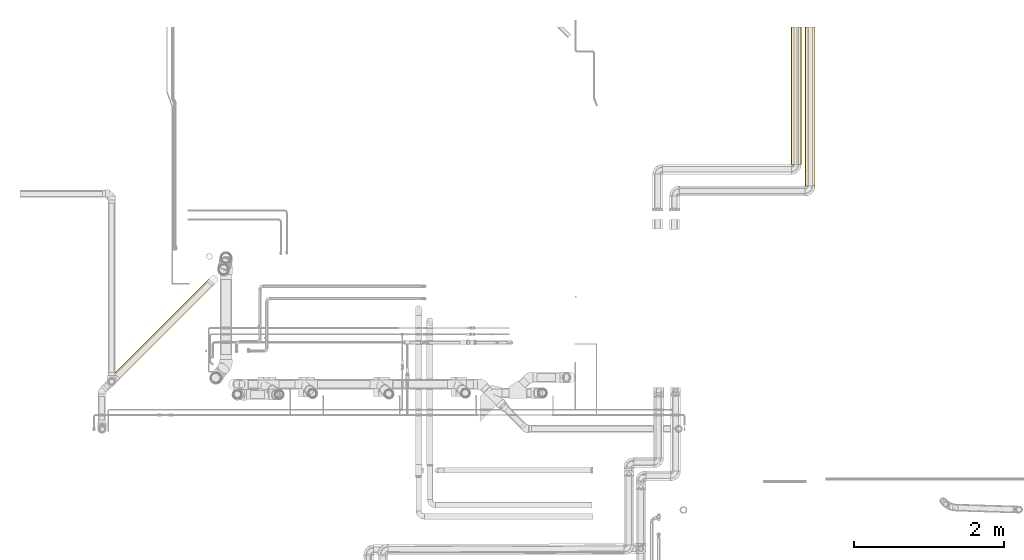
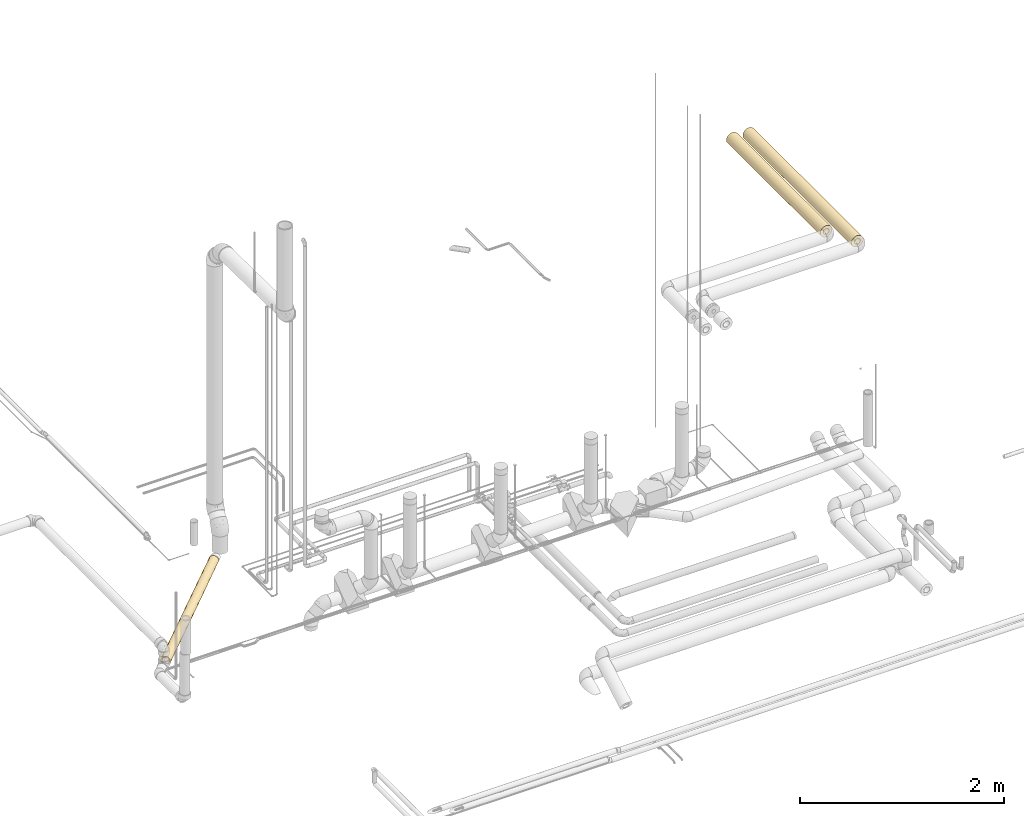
# One storey, part 13 of 156: 3 coverings.
"""IFC2X3 building model written with IfcOpenShell, lengths in millimetres."""

from ifc_helpers import new_model, entity, si_unit, converted_unit, derived_unit, direction, frame, place, context, subcontext, project, spatial, faceted_brep, element, save


model = new_model("IFC2X3")

# Units and contexts
model_context = context("Model", 3, precision=0.01, world=frame((0.0, 4.29681676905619e-09, 0.0)), true_north=direction((4.01073788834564e-13, 1.0)))
plan_context = context("Plan", 3, precision=0.01, world=frame((0.0, 4.29681676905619e-09, 0.0)), true_north=direction((4.01073788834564e-13, 1.0)))
body_context = subcontext(model_context, "Body", "Model", "MODEL_VIEW")
ifc_project = project(units=[converted_unit("PLANEANGLEUNIT", "DEGREE", entity("IfcPositiveLengthMeasure", 0.0174532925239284), si_unit("PLANEANGLEUNIT", "RADIAN"), dimensions=[0, 0, 0, 0, 0, 0, 0]), si_unit("AREAUNIT", "SQUARE_METRE"), si_unit("LENGTHUNIT", "METRE", prefix="MILLI"), si_unit("MASSUNIT", "GRAM", prefix="KILO"), si_unit("POWERUNIT", "WATT"), si_unit("PRESSUREUNIT", "PASCAL", prefix="KILO"), si_unit("FORCEUNIT", "NEWTON", prefix="KILO"), si_unit("ELECTRICVOLTAGEUNIT", "VOLT"), si_unit("ELECTRICCURRENTUNIT", "AMPERE"), si_unit("THERMODYNAMICTEMPERATUREUNIT", "DEGREE_CELSIUS"), si_unit("TIMEUNIT", "SECOND"), si_unit("VOLUMEUNIT", "CUBIC_METRE"), derived_unit("LINEARVELOCITYUNIT", [(si_unit("LENGTHUNIT", "METRE"), 1), (si_unit("TIMEUNIT", "SECOND"), -1)]), derived_unit("VOLUMETRICFLOWRATEUNIT", [(si_unit("VOLUMEUNIT", "CUBIC_METRE"), 1), (si_unit("TIMEUNIT", "SECOND"), -1)]), derived_unit("THERMALTRANSMITTANCEUNIT", [(si_unit("POWERUNIT", "WATT"), 1), (si_unit("THERMODYNAMICTEMPERATUREUNIT", "KELVIN"), -1), (si_unit("AREAUNIT", "SQUARE_METRE"), -1)]), derived_unit("SOUNDPRESSUREUNIT", [(si_unit("PRESSUREUNIT", "PASCAL"), 1)])], contexts=[model_context, plan_context])

# Site, building, storey
site_placement = place(None, frame((0.0, -4.29681676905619e-09, 0.0), z_axis=(0.0, 0.0, 1.0), x_axis=(1.0, 0.0, 0.0)))
site = spatial("IfcSite", under=ifc_project, at=site_placement, CompositionType="ELEMENT")
building_placement = place(site_placement, frame((0.0, 4.29681676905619e-09, 0.0), z_axis=(0.0, 0.0, 1.0), x_axis=(1.0, 0.0, 0.0)))
building = spatial("IfcBuilding", under=site, at=building_placement, Name="mc-building", CompositionType="ELEMENT")
storey_placement = place(building_placement, frame((0.0, 0.0, 205200.0), z_axis=(0.0, 0.0, 1.0), x_axis=(1.0, 0.0, 0.0)))
storey = spatial("IfcBuildingStorey", under=building, at=storey_placement, Name="Nivå D + 1,2 m", CompositionType="ELEMENT", Elevation=205200.0)

# Coverings
covering_1_placement = place(storey_placement, frame((331935.29993, 465664.02228, 4232.15388999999), z_axis=(0.0, 0.0, 1.0), x_axis=(0.0, 1.0, 0.0)))
element("IfcCovering", 1, at=covering_1_placement, inside=storey, Name="BI10T - Cellegummi 18-32 mm kalde rør", PredefinedType="INSULATION", context=body_context, shape_type="Brep", body=[
    faceted_brep([(1835.97771999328, 32.5, 0.0), (1835.97771999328, 32.0062519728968, -5.64356577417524), (0.0, 32.0062519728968, -5.64356577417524), (0.0, 32.5, 0.0), (1835.97771999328, 30.540010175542, -11.1156546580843), (0.0, 30.540010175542, -11.1156546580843), (1835.97771999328, 28.1458256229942, -16.25), (0.0, 28.1458256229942, -16.25), (1835.97771999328, 24.8964444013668, -20.8905973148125), (0.0, 24.8964444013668, -20.8905973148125), (1835.97771999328, 20.8905973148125, -24.8964444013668), (0.0, 20.8905973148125, -24.8964444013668), (1835.97771999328, 16.25, -28.1458256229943), (0.0, 16.25, -28.1458256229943), (1835.97771999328, 11.1156546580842, -30.540010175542), (0.0, 11.1156546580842, -30.540010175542), (1835.97771999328, 5.64356577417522, -32.0062519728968), (0.0, 5.64356577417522, -32.0062519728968), (1835.97771999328, -5.97015314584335e-15, -32.5), (0.0, -5.97015314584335e-15, -32.5), (1835.97771999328, -5.64356577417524, -32.0062519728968), (0.0, -5.64356577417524, -32.0062519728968), (1835.97771999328, -11.1156546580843, -30.540010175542), (0.0, -11.1156546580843, -30.540010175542), (1835.97771999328, -16.25, -28.1458256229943), (0.0, -16.25, -28.1458256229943), (1835.97771999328, -20.8905973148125, -24.8964444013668), (0.0, -20.8905973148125, -24.8964444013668), (1835.97771999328, -24.8964444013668, -20.8905973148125), (0.0, -24.8964444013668, -20.8905973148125), (1835.97771999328, -28.1458256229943, -16.25), (0.0, -28.1458256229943, -16.25), (1835.97771999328, -30.540010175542, -11.1156546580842), (0.0, -30.540010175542, -11.1156546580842), (1835.97771999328, -32.0062519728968, -5.64356577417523), (0.0, -32.0062519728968, -5.64356577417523), (1835.97771999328, -32.5, 3.9801020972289e-15), (0.0, -32.5, 3.9801020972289e-15), (1835.97771999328, -32.0062519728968, 5.64356577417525), (0.0, -32.0062519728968, 5.64356577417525), (1835.97771999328, -30.540010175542, 11.1156546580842), (0.0, -30.540010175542, 11.1156546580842), (1835.97771999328, -28.1458256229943, 16.25), (0.0, -28.1458256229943, 16.25), (1835.97771999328, -24.8964444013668, 20.8905973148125), (0.0, -24.8964444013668, 20.8905973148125), (1835.97771999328, -20.8905973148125, 24.8964444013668), (0.0, -20.8905973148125, 24.8964444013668), (1835.97771999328, -16.25, 28.1458256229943), (0.0, -16.25, 28.1458256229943), (1835.97771999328, -11.1156546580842, 30.540010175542), (0.0, -11.1156546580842, 30.540010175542), (1835.97771999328, -5.64356577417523, 32.0062519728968), (0.0, -5.64356577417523, 32.0062519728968), (1835.97771999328, 1.99005104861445e-15, 32.5), (0.0, 1.99005104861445e-15, 32.5), (1835.97771999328, 5.64356577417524, 32.0062519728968), (0.0, 5.64356577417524, 32.0062519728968), (1835.97771999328, 11.1156546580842, 30.540010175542), (0.0, 11.1156546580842, 30.540010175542), (1835.97771999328, 16.25, 28.1458256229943), (0.0, 16.25, 28.1458256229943), (1835.97771999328, 20.8905973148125, 24.8964444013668), (0.0, 20.8905973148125, 24.8964444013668), (1835.97771999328, 24.8964444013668, 20.8905973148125), (0.0, 24.8964444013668, 20.8905973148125), (1835.97771999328, 28.1458256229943, 16.25), (0.0, 28.1458256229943, 16.25), (1835.97771999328, 30.540010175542, 11.1156546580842), (0.0, 30.540010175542, 11.1156546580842), (1835.97771999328, 32.0062519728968, 5.64356577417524), (0.0, 32.0062519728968, 5.64356577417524), (1835.97771999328, 66.474523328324, -11.7212519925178), (1835.97771999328, 67.5, 0.0), (0.0, 67.5, 0.0), (0.0, 66.474523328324, -11.7212519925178), (1835.97771999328, 66.474523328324, 11.7212519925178), (0.0, 66.474523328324, 11.7212519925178), (1835.97771999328, 63.4292519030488, 23.0863596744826), (0.0, 63.4292519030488, 23.0863596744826), (1835.97771999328, 58.4567147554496, 33.75), (0.0, 58.4567147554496, 33.75), (1835.97771999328, 51.707999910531, 43.3881636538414), (0.0, 51.707999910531, 43.3881636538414), (1835.97771999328, 43.3881636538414, 51.707999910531), (0.0, 43.3881636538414, 51.707999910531), (1835.97771999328, 33.75, 58.4567147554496), (0.0, 33.75, 58.4567147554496), (1835.97771999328, 23.0863596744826, 63.4292519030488), (0.0, 23.0863596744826, 63.4292519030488), (1835.97771999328, 11.7212519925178, 66.474523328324), (0.0, 11.7212519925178, 66.474523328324), (1835.97771999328, 4.13318294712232e-15, 67.5), (0.0, 4.13318294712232e-15, 67.5), (1835.97771999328, -11.7212519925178, 66.474523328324), (0.0, -11.7212519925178, 66.474523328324), (1835.97771999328, -23.0863596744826, 63.4292519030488), (0.0, -23.0863596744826, 63.4292519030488), (1835.97771999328, -33.75, 58.4567147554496), (0.0, -33.75, 58.4567147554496), (1835.97771999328, -43.3881636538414, 51.707999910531), (0.0, -43.3881636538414, 51.707999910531), (1835.97771999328, -51.707999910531, 43.3881636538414), (0.0, -51.707999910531, 43.3881636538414), (1835.97771999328, -58.4567147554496, 33.75), (0.0, -58.4567147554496, 33.75), (1835.97771999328, -63.4292519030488, 23.0863596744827), (0.0, -63.4292519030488, 23.0863596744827), (1835.97771999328, -66.474523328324, 11.7212519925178), (0.0, -66.474523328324, 11.7212519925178), (1835.97771999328, -67.5, 8.26636589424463e-15), (0.0, -67.5, 8.26636589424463e-15), (1835.97771999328, -66.4745233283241, -11.7212519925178), (0.0, -66.4745233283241, -11.7212519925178), (1835.97771999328, -63.4292519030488, -23.0863596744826), (0.0, -63.4292519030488, -23.0863596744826), (1835.97771999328, -58.4567147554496, -33.75), (0.0, -58.4567147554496, -33.75), (1835.97771999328, -51.707999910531, -43.3881636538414), (0.0, -51.707999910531, -43.3881636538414), (1835.97771999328, -43.3881636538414, -51.707999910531), (0.0, -43.3881636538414, -51.707999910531), (1835.97771999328, -33.75, -58.4567147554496), (0.0, -33.75, -58.4567147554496), (1835.97771999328, -23.0863596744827, -63.4292519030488), (0.0, -23.0863596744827, -63.4292519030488), (1835.97771999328, -11.7212519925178, -66.474523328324), (0.0, -11.7212519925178, -66.474523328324), (1835.97771999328, -1.23995488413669e-14, -67.5), (0.0, -1.2399548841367e-14, -67.5), (1835.97771999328, 11.7212519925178, -66.4745233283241), (0.0, 11.7212519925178, -66.4745233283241), (1835.97771999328, 23.0863596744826, -63.4292519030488), (0.0, 23.0863596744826, -63.4292519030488), (1835.97771999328, 33.75, -58.4567147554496), (0.0, 33.75, -58.4567147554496), (1835.97771999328, 43.3881636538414, -51.707999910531), (0.0, 43.3881636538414, -51.707999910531), (1835.97771999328, 51.707999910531, -43.3881636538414), (0.0, 51.707999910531, -43.3881636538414), (1835.97771999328, 58.4567147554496, -33.75), (0.0, 58.4567147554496, -33.75), (1835.97771999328, 63.4292519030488, -23.0863596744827), (0.0, 63.4292519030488, -23.0863596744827)], [[[0, 1, 2, 3]], [[1, 4, 5, 2]], [[4, 6, 7, 5]], [[6, 8, 9, 7]], [[8, 10, 11, 9]], [[10, 12, 13, 11]], [[12, 14, 15, 13]], [[14, 16, 17, 15]], [[16, 18, 19, 17]], [[18, 20, 21, 19]], [[20, 22, 23, 21]], [[22, 24, 25, 23]], [[24, 26, 27, 25]], [[26, 28, 29, 27]], [[28, 30, 31, 29]], [[30, 32, 33, 31]], [[32, 34, 35, 33]], [[34, 36, 37, 35]], [[36, 38, 39, 37]], [[38, 40, 41, 39]], [[40, 42, 43, 41]], [[42, 44, 45, 43]], [[44, 46, 47, 45]], [[46, 48, 49, 47]], [[48, 50, 51, 49]], [[50, 52, 53, 51]], [[52, 54, 55, 53]], [[54, 56, 57, 55]], [[56, 58, 59, 57]], [[58, 60, 61, 59]], [[60, 62, 63, 61]], [[62, 64, 65, 63]], [[64, 66, 67, 65]], [[66, 68, 69, 67]], [[68, 70, 71, 69]], [[70, 0, 3, 71]], [[72, 73, 74, 75]], [[73, 76, 77, 74]], [[76, 78, 79, 77]], [[78, 80, 81, 79]], [[80, 82, 83, 81]], [[82, 84, 85, 83]], [[84, 86, 87, 85]], [[86, 88, 89, 87]], [[88, 90, 91, 89]], [[90, 92, 93, 91]], [[92, 94, 95, 93]], [[94, 96, 97, 95]], [[96, 98, 99, 97]], [[98, 100, 101, 99]], [[100, 102, 103, 101]], [[102, 104, 105, 103]], [[104, 106, 107, 105]], [[106, 108, 109, 107]], [[108, 110, 111, 109]], [[110, 112, 113, 111]], [[112, 114, 115, 113]], [[114, 116, 117, 115]], [[116, 118, 119, 117]], [[118, 120, 121, 119]], [[120, 122, 123, 121]], [[122, 124, 125, 123]], [[124, 126, 127, 125]], [[126, 128, 129, 127]], [[128, 130, 131, 129]], [[130, 132, 133, 131]], [[132, 134, 135, 133]], [[134, 136, 137, 135]], [[136, 138, 139, 137]], [[138, 140, 141, 139]], [[140, 142, 143, 141]], [[142, 72, 75, 143]], [[75, 74, 77, 79, 81, 83, 85, 87, 89, 91, 93, 95, 97, 99, 101, 103, 105, 107, 109, 111, 113, 115, 117, 119, 121, 123, 125, 127, 129, 131, 133, 135, 137, 139, 141, 143], [3, 2, 5, 7, 9, 11, 13, 15, 17, 19, 21, 23, 25, 27, 29, 31, 33, 35, 37, 39, 41, 43, 45, 47, 49, 51, 53, 55, 57, 59, 61, 63, 65, 67, 69, 71]], [[142, 140, 138, 136, 134, 132, 130, 128, 126, 124, 122, 120, 118, 116, 114, 112, 110, 108, 106, 104, 102, 100, 98, 96, 94, 92, 90, 88, 86, 84, 82, 80, 78, 76, 73, 72], [70, 68, 66, 64, 62, 60, 58, 56, 54, 52, 50, 48, 46, 44, 42, 40, 38, 36, 34, 32, 30, 28, 26, 24, 22, 20, 18, 16, 14, 12, 10, 8, 6, 4, 1, 0]]], orient=[[False], [False], [False], [False], [False], [False], [False], [False], [False], [False], [False], [False], [False], [False], [False], [False], [False], [False], [False], [False], [False], [False], [False], [False], [False], [False], [False], [False], [False], [False], [False], [False], [False], [False], [False], [False], [False], [False], [False], [False], [False], [False], [False], [False], [False], [False], [False], [False], [False], [False], [False], [False], [False], [False], [False], [False], [False], [False], [False], [False], [False], [False], [False], [False], [False], [False], [False], [False], [False], [False], [False], [False], [False, False], [False, False]]),
])
covering_2_placement = place(storey_placement, frame((332120.29993, 465374.02229, 4224.29453000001), z_axis=(0.0, 0.0, 1.0), x_axis=(0.0, 1.0, 0.0)))
element("IfcCovering", 2, at=covering_2_placement, inside=storey, Name="BI10T - Cellegummi 18-32 mm kalde rør", PredefinedType="INSULATION", context=body_context, shape_type="Brep", body=[
    faceted_brep([(2125.97770999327, 32.5, 0.0), (2125.97770999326, 32.0062519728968, -5.64356577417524), (0.0, 32.0062519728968, -5.64356577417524), (0.0, 32.5, 0.0), (2125.97770999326, 30.540010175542, -11.1156546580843), (0.0, 30.540010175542, -11.1156546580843), (2125.97770999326, 28.1458256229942, -16.25), (0.0, 28.1458256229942, -16.25), (2125.97770999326, 24.8964444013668, -20.8905973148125), (0.0, 24.8964444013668, -20.8905973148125), (2125.97770999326, 20.8905973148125, -24.8964444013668), (0.0, 20.8905973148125, -24.8964444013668), (2125.97770999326, 16.25, -28.1458256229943), (0.0, 16.25, -28.1458256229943), (2125.97770999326, 11.1156546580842, -30.540010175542), (0.0, 11.1156546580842, -30.540010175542), (2125.97770999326, 5.64356577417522, -32.0062519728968), (0.0, 5.64356577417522, -32.0062519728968), (2125.97770999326, -5.97015314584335e-15, -32.5), (0.0, -5.97015314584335e-15, -32.5), (2125.97770999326, -5.64356577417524, -32.0062519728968), (0.0, -5.64356577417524, -32.0062519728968), (2125.97770999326, -11.1156546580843, -30.540010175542), (0.0, -11.1156546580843, -30.540010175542), (2125.97770999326, -16.25, -28.1458256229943), (0.0, -16.25, -28.1458256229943), (2125.97770999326, -20.8905973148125, -24.8964444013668), (0.0, -20.8905973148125, -24.8964444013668), (2125.97770999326, -24.8964444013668, -20.8905973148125), (0.0, -24.8964444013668, -20.8905973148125), (2125.97770999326, -28.1458256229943, -16.25), (0.0, -28.1458256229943, -16.25), (2125.97770999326, -30.540010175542, -11.1156546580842), (0.0, -30.540010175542, -11.1156546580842), (2125.97770999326, -32.0062519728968, -5.64356577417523), (0.0, -32.0062519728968, -5.64356577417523), (2125.97770999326, -32.5, 3.9801020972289e-15), (0.0, -32.5, 3.9801020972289e-15), (2125.97770999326, -32.0062519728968, 5.64356577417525), (0.0, -32.0062519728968, 5.64356577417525), (2125.97770999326, -30.540010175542, 11.1156546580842), (0.0, -30.540010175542, 11.1156546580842), (2125.97770999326, -28.1458256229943, 16.25), (0.0, -28.1458256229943, 16.25), (2125.97770999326, -24.8964444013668, 20.8905973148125), (0.0, -24.8964444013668, 20.8905973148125), (2125.97770999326, -20.8905973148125, 24.8964444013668), (0.0, -20.8905973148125, 24.8964444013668), (2125.97770999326, -16.25, 28.1458256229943), (0.0, -16.25, 28.1458256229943), (2125.97770999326, -11.1156546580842, 30.540010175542), (0.0, -11.1156546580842, 30.540010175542), (2125.97770999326, -5.64356577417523, 32.0062519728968), (0.0, -5.64356577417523, 32.0062519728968), (2125.97770999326, 1.99005104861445e-15, 32.5), (0.0, 1.99005104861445e-15, 32.5), (2125.97770999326, 5.64356577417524, 32.0062519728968), (0.0, 5.64356577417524, 32.0062519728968), (2125.97770999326, 11.1156546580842, 30.540010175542), (0.0, 11.1156546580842, 30.540010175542), (2125.97770999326, 16.25, 28.1458256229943), (0.0, 16.25, 28.1458256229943), (2125.97770999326, 20.8905973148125, 24.8964444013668), (0.0, 20.8905973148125, 24.8964444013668), (2125.97770999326, 24.8964444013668, 20.8905973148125), (0.0, 24.8964444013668, 20.8905973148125), (2125.97770999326, 28.1458256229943, 16.25), (0.0, 28.1458256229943, 16.25), (2125.97770999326, 30.540010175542, 11.1156546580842), (0.0, 30.540010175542, 11.1156546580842), (2125.97770999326, 32.0062519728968, 5.64356577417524), (0.0, 32.0062519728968, 5.64356577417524), (2125.97770999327, 66.474523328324, -11.7212519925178), (2125.97770999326, 67.5, 0.0), (0.0, 67.5, 0.0), (0.0, 66.474523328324, -11.7212519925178), (2125.97770999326, 66.474523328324, 11.7212519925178), (0.0, 66.474523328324, 11.7212519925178), (2125.97770999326, 63.4292519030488, 23.0863596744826), (0.0, 63.4292519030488, 23.0863596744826), (2125.97770999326, 58.4567147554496, 33.75), (0.0, 58.4567147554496, 33.75), (2125.97770999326, 51.707999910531, 43.3881636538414), (0.0, 51.707999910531, 43.3881636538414), (2125.97770999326, 43.3881636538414, 51.707999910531), (0.0, 43.3881636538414, 51.707999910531), (2125.97770999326, 33.75, 58.4567147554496), (0.0, 33.75, 58.4567147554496), (2125.97770999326, 23.0863596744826, 63.4292519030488), (0.0, 23.0863596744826, 63.4292519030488), (2125.97770999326, 11.7212519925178, 66.474523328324), (0.0, 11.7212519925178, 66.474523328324), (2125.97770999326, 4.13318294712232e-15, 67.5), (0.0, 4.13318294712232e-15, 67.5), (2125.97770999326, -11.7212519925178, 66.474523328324), (0.0, -11.7212519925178, 66.474523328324), (2125.97770999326, -23.0863596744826, 63.4292519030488), (0.0, -23.0863596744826, 63.4292519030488), (2125.97770999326, -33.75, 58.4567147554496), (0.0, -33.75, 58.4567147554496), (2125.97770999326, -43.3881636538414, 51.707999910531), (0.0, -43.3881636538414, 51.707999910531), (2125.97770999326, -51.707999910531, 43.3881636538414), (0.0, -51.707999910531, 43.3881636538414), (2125.97770999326, -58.4567147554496, 33.75), (0.0, -58.4567147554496, 33.75), (2125.97770999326, -63.4292519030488, 23.0863596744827), (0.0, -63.4292519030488, 23.0863596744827), (2125.97770999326, -66.474523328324, 11.7212519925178), (0.0, -66.474523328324, 11.7212519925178), (2125.97770999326, -67.5, 8.26636589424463e-15), (0.0, -67.5, 8.26636589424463e-15), (2125.97770999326, -66.4745233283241, -11.7212519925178), (0.0, -66.4745233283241, -11.7212519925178), (2125.97770999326, -63.4292519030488, -23.0863596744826), (0.0, -63.4292519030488, -23.0863596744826), (2125.97770999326, -58.4567147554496, -33.75), (0.0, -58.4567147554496, -33.75), (2125.97770999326, -51.707999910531, -43.3881636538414), (0.0, -51.707999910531, -43.3881636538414), (2125.97770999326, -43.3881636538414, -51.707999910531), (0.0, -43.3881636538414, -51.707999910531), (2125.97770999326, -33.75, -58.4567147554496), (0.0, -33.75, -58.4567147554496), (2125.97770999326, -23.0863596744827, -63.4292519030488), (0.0, -23.0863596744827, -63.4292519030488), (2125.97770999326, -11.7212519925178, -66.474523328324), (0.0, -11.7212519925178, -66.474523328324), (2125.97770999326, -1.23995488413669e-14, -67.5), (0.0, -1.2399548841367e-14, -67.5), (2125.97770999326, 11.7212519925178, -66.4745233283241), (0.0, 11.7212519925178, -66.4745233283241), (2125.97770999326, 23.0863596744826, -63.4292519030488), (0.0, 23.0863596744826, -63.4292519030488), (2125.97770999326, 33.75, -58.4567147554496), (0.0, 33.75, -58.4567147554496), (2125.97770999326, 43.3881636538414, -51.707999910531), (0.0, 43.3881636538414, -51.707999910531), (2125.97770999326, 51.707999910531, -43.3881636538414), (0.0, 51.707999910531, -43.3881636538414), (2125.97770999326, 58.4567147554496, -33.75), (0.0, 58.4567147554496, -33.75), (2125.97770999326, 63.4292519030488, -23.0863596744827), (0.0, 63.4292519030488, -23.0863596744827)], [[[0, 1, 2, 3]], [[1, 4, 5, 2]], [[4, 6, 7, 5]], [[6, 8, 9, 7]], [[8, 10, 11, 9]], [[10, 12, 13, 11]], [[12, 14, 15, 13]], [[14, 16, 17, 15]], [[16, 18, 19, 17]], [[18, 20, 21, 19]], [[20, 22, 23, 21]], [[22, 24, 25, 23]], [[24, 26, 27, 25]], [[26, 28, 29, 27]], [[28, 30, 31, 29]], [[30, 32, 33, 31]], [[32, 34, 35, 33]], [[34, 36, 37, 35]], [[36, 38, 39, 37]], [[38, 40, 41, 39]], [[40, 42, 43, 41]], [[42, 44, 45, 43]], [[44, 46, 47, 45]], [[46, 48, 49, 47]], [[48, 50, 51, 49]], [[50, 52, 53, 51]], [[52, 54, 55, 53]], [[54, 56, 57, 55]], [[56, 58, 59, 57]], [[58, 60, 61, 59]], [[60, 62, 63, 61]], [[62, 64, 65, 63]], [[64, 66, 67, 65]], [[66, 68, 69, 67]], [[68, 70, 71, 69]], [[70, 0, 3, 71]], [[72, 73, 74, 75]], [[73, 76, 77, 74]], [[76, 78, 79, 77]], [[78, 80, 81, 79]], [[80, 82, 83, 81]], [[82, 84, 85, 83]], [[84, 86, 87, 85]], [[86, 88, 89, 87]], [[88, 90, 91, 89]], [[90, 92, 93, 91]], [[92, 94, 95, 93]], [[94, 96, 97, 95]], [[96, 98, 99, 97]], [[98, 100, 101, 99]], [[100, 102, 103, 101]], [[102, 104, 105, 103]], [[104, 106, 107, 105]], [[106, 108, 109, 107]], [[108, 110, 111, 109]], [[110, 112, 113, 111]], [[112, 114, 115, 113]], [[114, 116, 117, 115]], [[116, 118, 119, 117]], [[118, 120, 121, 119]], [[120, 122, 123, 121]], [[122, 124, 125, 123]], [[124, 126, 127, 125]], [[126, 128, 129, 127]], [[128, 130, 131, 129]], [[130, 132, 133, 131]], [[132, 134, 135, 133]], [[134, 136, 137, 135]], [[136, 138, 139, 137]], [[138, 140, 141, 139]], [[140, 142, 143, 141]], [[142, 72, 75, 143]], [[75, 74, 77, 79, 81, 83, 85, 87, 89, 91, 93, 95, 97, 99, 101, 103, 105, 107, 109, 111, 113, 115, 117, 119, 121, 123, 125, 127, 129, 131, 133, 135, 137, 139, 141, 143], [3, 2, 5, 7, 9, 11, 13, 15, 17, 19, 21, 23, 25, 27, 29, 31, 33, 35, 37, 39, 41, 43, 45, 47, 49, 51, 53, 55, 57, 59, 61, 63, 65, 67, 69, 71]], [[142, 140, 138, 136, 134, 132, 130, 128, 126, 124, 122, 120, 118, 116, 114, 112, 110, 108, 106, 104, 102, 100, 98, 96, 94, 92, 90, 88, 86, 84, 82, 80, 78, 76, 73, 72], [70, 68, 66, 64, 62, 60, 58, 56, 54, 52, 50, 48, 46, 44, 42, 40, 38, 36, 34, 32, 30, 28, 26, 24, 22, 20, 18, 16, 14, 12, 10, 8, 6, 4, 1, 0]]], orient=[[False], [False], [False], [False], [False], [False], [False], [False], [False], [False], [False], [False], [False], [False], [False], [False], [False], [False], [False], [False], [False], [False], [False], [False], [False], [False], [False], [False], [False], [False], [False], [False], [False], [False], [False], [False], [False], [False], [False], [False], [False], [False], [False], [False], [False], [False], [False], [False], [False], [False], [False], [False], [False], [False], [False], [False], [False], [False], [False], [False], [False], [False], [False], [False], [False], [False], [False], [False], [False], [False], [False], [False], [False, False], [False, False]]),
])
covering_3_placement = place(storey_placement, frame((324114.19271, 464095.45265, 3999.09020999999), z_axis=(0.0118089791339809, 0.0118069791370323, 0.999860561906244), x_axis=(-0.707057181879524, -0.706959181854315, 0.0166990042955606)))
element("IfcCovering", 3, at=covering_3_placement, inside=storey, Name="BI17T - Cellegummi 13 mm SPV fett", PredefinedType="INSULATION", context=body_context, shape_type="Brep", body=[
    faceted_brep([(444.379677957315, 36.9302907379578, -6.51180666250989), (54.4822682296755, 37.5, 0.0), (1826.7, 37.5, 0.0), (1826.7, 36.9302907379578, -6.51180666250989), (822.430234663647, 35.2384732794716, -12.8257553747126), (1826.7, 35.2384732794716, -12.8257553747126), (1177.14706348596, 32.4759526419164, -18.75), (1826.7, 32.4759526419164, -18.75), (1497.75227307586, 28.7266666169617, -24.1045353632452), (1826.7, 28.7266666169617, -24.1045353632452), (1774.50443637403, 24.1045353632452, -28.7266666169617), (1826.7, 24.1045353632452, -28.7266666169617), (1826.7, 22.8595675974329, -29.5984024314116), (1774.50369491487, -24.1045353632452, -28.7266666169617), (1826.7, -22.859550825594, -29.5984141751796), (1826.7, -24.1045353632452, -28.7266666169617), (1497.75138943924, -28.7266666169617, -24.1045353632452), (1826.7, -28.7266666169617, -24.1045353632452), (1177.14606452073, -32.4759526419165, -18.75), (1826.7, -32.4759526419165, -18.75), (822.429150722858, -35.2384732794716, -12.8257553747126), (1826.7, -35.2384732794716, -12.8257553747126), (444.378541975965, -36.9302907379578, -6.51180666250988), (1826.7, -36.9302907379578, -6.51180666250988), (54.4811147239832, -37.5, 4.59242549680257e-15), (1826.7, -37.5, 4.59242549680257e-15), (0.0, -37.4203934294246, 0.90990726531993), (1826.7, -36.9302907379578, 6.5118066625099), (0.0, -36.9302907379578, 6.5118066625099), (1826.7, -35.2384732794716, 12.8257553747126), (0.0, -35.2384732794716, 12.8257553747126), (1826.7, -32.4759526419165, 18.75), (0.0, -32.4759526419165, 18.75), (1826.7, -28.7266666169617, 24.1045353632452), (0.0, -28.7266666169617, 24.1045353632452), (1826.7, -24.1045353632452, 28.7266666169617), (0.0, -24.1045353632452, 28.7266666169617), (1826.7, -18.75, 32.4759526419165), (0.0, -18.75, 32.4759526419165), (1826.7, -12.8257553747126, 35.2384732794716), (0.0, -12.8257553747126, 35.2384732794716), (1826.7, -6.51180666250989, 36.9302907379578), (0.0, -6.51180666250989, 36.9302907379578), (1826.7, 2.29621274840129e-15, 37.5), (0.0, 2.29621274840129e-15, 37.5), (1826.7, 6.51180666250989, 36.9302907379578), (0.0, 6.51180666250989, 36.9302907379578), (1826.7, 12.8257553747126, 35.2384732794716), (0.0, 12.8257553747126, 35.2384732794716), (1826.7, 18.75, 32.4759526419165), (0.0, 18.75, 32.4759526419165), (1826.7, 24.1045353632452, 28.7266666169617), (0.0, 24.1045353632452, 28.7266666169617), (1826.7, 28.7266666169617, 24.1045353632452), (0.0, 28.7266666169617, 24.1045353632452), (1826.7, 32.4759526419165, 18.75), (0.0, 32.4759526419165, 18.75), (1826.7, 35.2384732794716, 12.8257553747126), (0.0, 35.2384732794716, 12.8257553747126), (1826.7, 36.9302907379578, 6.51180666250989), (0.0, 36.9302907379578, 6.51180666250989), (0.0, 37.4203917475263, 0.909926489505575), (54.482468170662, 50.5, 0.0), (579.54431327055, 49.7327915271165, -8.76923297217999), (1826.7, 49.7327915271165, -8.76923297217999), (1826.7, 50.5, 0.0), (0.0, 50.4203914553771, 0.909929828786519), (1826.7, 49.7327915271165, 8.76923297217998), (0.0, 49.7327915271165, 8.76923297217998), (1826.7, 47.4544773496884, 17.2720172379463), (0.0, 47.4544773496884, 17.2720172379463), (1826.7, 43.7342828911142, 25.25), (0.0, 43.7342828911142, 25.25), (1826.7, 38.6852443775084, 32.4607742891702), (0.0, 38.6852443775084, 32.4607742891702), (1826.7, 32.4607742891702, 38.6852443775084), (0.0, 32.4607742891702, 38.6852443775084), (1826.7, 25.25, 43.7342828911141), (0.0, 25.25, 43.7342828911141), (1826.7, 17.2720172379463, 47.4544773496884), (0.0, 17.2720172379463, 47.4544773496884), (1826.7, 8.76923297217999, 49.7327915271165), (0.0, 8.76923297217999, 49.7327915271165), (1826.7, 3.09223316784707e-15, 50.5), (0.0, 3.09223316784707e-15, 50.5), (1826.7, -8.76923297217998, 49.7327915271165), (0.0, -8.76923297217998, 49.7327915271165), (1826.7, -17.2720172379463, 47.4544773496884), (0.0, -17.2720172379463, 47.4544773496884), (1826.7, -25.25, 43.7342828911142), (0.0, -25.25, 43.7342828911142), (1826.7, -32.4607742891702, 38.6852443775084), (0.0, -32.4607742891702, 38.6852443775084), (1826.7, -38.6852443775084, 32.4607742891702), (0.0, -38.6852443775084, 32.4607742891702), (1826.7, -43.7342828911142, 25.25), (0.0, -43.7342828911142, 25.25), (1826.7, -47.4544773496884, 17.2720172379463), (0.0, -47.4544773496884, 17.2720172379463), (1826.7, -49.7327915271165, 8.76923297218), (0.0, -49.7327915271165, 8.76923297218), (54.4809147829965, -50.5, 6.18446633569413e-15), (0.0, -50.4203937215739, 0.909903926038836), (1826.7, -50.5, 6.18446633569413e-15), (579.542783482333, -49.7327915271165, -8.76923297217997), (1826.7, -49.7327915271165, -8.76923297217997), (1088.65093659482, -47.4544773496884, -17.2720172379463), (1826.7, -47.4544773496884, -17.2720172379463), (1566.33638050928, -43.7342828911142, -25.25), (1826.7, -43.7342828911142, -25.25), (1826.7, -40.6894872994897, -29.5984187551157), (1566.33772578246, 43.7342828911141, -25.25), (1826.7, 40.6895019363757, -29.5983978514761), (1826.7, 43.7342828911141, -25.25), (1088.65239630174, 47.4544773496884, -17.2720172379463), (1826.7, 47.4544773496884, -17.2720172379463), (0.0, -37.4204663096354, 0.909074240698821), (0.0, 37.4204663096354, 0.909074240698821), (1826.7, 22.8590261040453, -29.5987815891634)], [[[0, 1, 2, 3]], [[4, 0, 3, 5]], [[6, 4, 5, 7]], [[8, 6, 7, 9]], [[10, 8, 9, 11]], [[12, 10, 11]], [[13, 14, 15]], [[16, 13, 15, 17]], [[18, 16, 17, 19]], [[20, 18, 19, 21]], [[22, 20, 21, 23]], [[24, 22, 23, 25]], [[26, 24, 25, 27, 28]], [[28, 27, 29, 30]], [[30, 29, 31, 32]], [[32, 31, 33, 34]], [[34, 33, 35, 36]], [[36, 35, 37, 38]], [[38, 37, 39, 40]], [[40, 39, 41, 42]], [[42, 41, 43, 44]], [[44, 43, 45, 46]], [[46, 45, 47, 48]], [[48, 47, 49, 50]], [[50, 49, 51, 52]], [[52, 51, 53, 54]], [[54, 53, 55, 56]], [[56, 55, 57, 58]], [[58, 57, 59, 60]], [[1, 61, 60, 59, 2]], [[62, 63, 64, 65]], [[66, 62, 65, 67, 68]], [[68, 67, 69, 70]], [[70, 69, 71, 72]], [[72, 71, 73, 74]], [[74, 73, 75, 76]], [[76, 75, 77, 78]], [[78, 77, 79, 80]], [[80, 79, 81, 82]], [[82, 81, 83, 84]], [[84, 83, 85, 86]], [[86, 85, 87, 88]], [[88, 87, 89, 90]], [[90, 89, 91, 92]], [[92, 91, 93, 94]], [[94, 93, 95, 96]], [[96, 95, 97, 98]], [[98, 97, 99, 100]], [[101, 102, 100, 99, 103]], [[104, 101, 103, 105]], [[106, 104, 105, 107]], [[108, 106, 107, 109]], [[110, 108, 109]], [[111, 112, 113]], [[114, 111, 113, 115]], [[63, 114, 115, 64]], [[102, 116, 28, 30, 32, 34, 36, 38, 40, 42, 44, 46, 48, 50, 52, 54, 56, 58, 60, 117, 66, 68, 70, 72, 74, 76, 78, 80, 82, 84, 86, 88, 90, 92, 94, 96, 98, 100]], [[112, 118, 11, 9, 7, 5, 3, 2, 59, 57, 55, 53, 51, 49, 47, 45, 43, 41, 39, 37, 35, 33, 31, 29, 27, 25, 23, 21, 19, 17, 15, 14, 110, 109, 107, 105, 103, 99, 97, 95, 93, 91, 89, 87, 85, 83, 81, 79, 77, 75, 73, 71, 69, 67, 65, 64, 115, 113]], [[4, 6, 8, 10, 12, 112, 111, 114, 63, 62, 66, 61, 1, 0]], [[16, 18, 20, 22, 24, 26, 102, 101, 104, 106, 108, 110, 14, 13]]], orient=[[False], [False], [False], [False], [False], [False], [False], [False], [False], [False], [False], [False], [False], [False], [False], [False], [False], [False], [False], [False], [False], [False], [False], [False], [False], [False], [False], [False], [False], [False], [False], [False], [False], [False], [False], [False], [False], [False], [False], [False], [False], [False], [False], [False], [False], [False], [False], [False], [False], [False], [False], [False], [False], [False], [False], [False], [False], [False], [False], [False]]),
])

save(model, "model.ifc")
